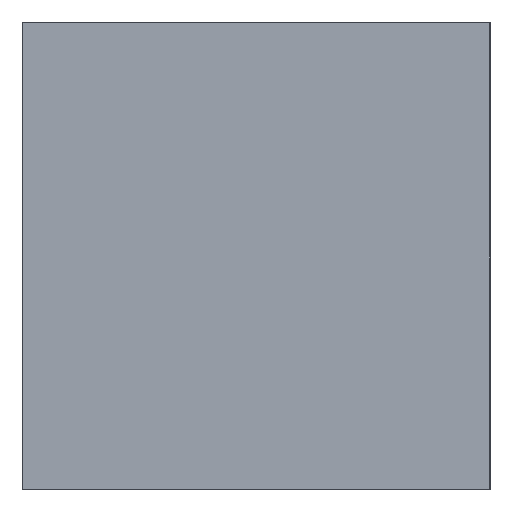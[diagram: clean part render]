
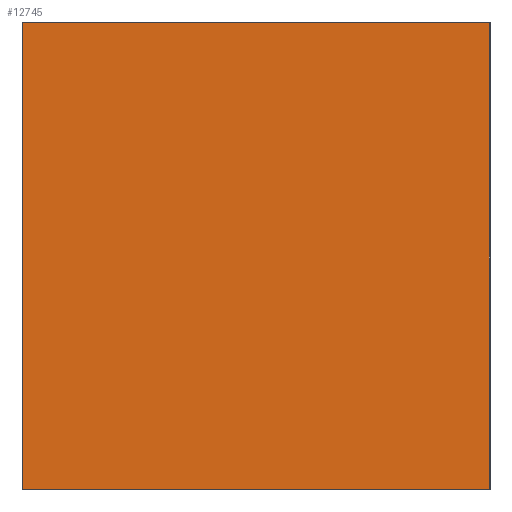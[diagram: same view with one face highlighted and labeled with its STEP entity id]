
A CAD part, top view. The second image highlights one B-rep face of the part: STEP entity #12745.
In plain terms, the highlighted planar face has unit normal (0, 0, 1).
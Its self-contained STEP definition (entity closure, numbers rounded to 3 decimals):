
#12706=CARTESIAN_POINT('',(0.,0.,20.));
#12707=DIRECTION('',(1.,0.,0.));
#12708=DIRECTION('',(0.,0.,1.));
#12709=AXIS2_PLACEMENT_3D('',#12706,#12708,#12707);
#12710=PLANE('',#12709);
#12711=CARTESIAN_POINT('',(448.5,-448.5,20.));
#12712=VERTEX_POINT('',#12711);
#12713=CARTESIAN_POINT('',(448.5,448.5,20.));
#12714=VERTEX_POINT('',#12713);
#12715=CARTESIAN_POINT('',(448.5,-448.5,20.));
#12716=DIRECTION('',(0.,1.,0.));
#12717=VECTOR('',#12716,897.);
#12718=LINE('',#12715,#12717);
#12719=EDGE_CURVE('',#12712,#12714,#12718,.T.);
#12720=ORIENTED_EDGE('E118',*,*,#12719,.T.);
#12721=CARTESIAN_POINT('',(-448.5,448.5,20.));
#12722=VERTEX_POINT('',#12721);
#12723=CARTESIAN_POINT('',(448.5,448.5,20.));
#12724=DIRECTION('',(-1.,0.,0.));
#12725=VECTOR('',#12724,897.);
#12726=LINE('',#12723,#12725);
#12727=EDGE_CURVE('',#12714,#12722,#12726,.T.);
#12728=ORIENTED_EDGE('E119',*,*,#12727,.T.);
#12729=CARTESIAN_POINT('',(-448.5,-448.5,20.));
#12730=VERTEX_POINT('',#12729);
#12731=CARTESIAN_POINT('',(-448.5,448.5,20.));
#12732=DIRECTION('',(0.,-1.,0.));
#12733=VECTOR('',#12732,897.);
#12734=LINE('',#12731,#12733);
#12735=EDGE_CURVE('',#12722,#12730,#12734,.T.);
#12736=ORIENTED_EDGE('E120',*,*,#12735,.T.);
#12737=CARTESIAN_POINT('',(-448.5,-448.5,20.));
#12738=DIRECTION('',(1.,0.,0.));
#12739=VECTOR('',#12738,897.);
#12740=LINE('',#12737,#12739);
#12741=EDGE_CURVE('',#12730,#12712,#12740,.T.);
#12742=ORIENTED_EDGE('E117',*,*,#12741,.T.);
#12743=EDGE_LOOP('',(#12720,#12728,#12736,#12742));
#12744=FACE_OUTER_BOUND('',#12743,.T.);
#12745=ADVANCED_FACE('F2',(#12744),#12710,.T.);
